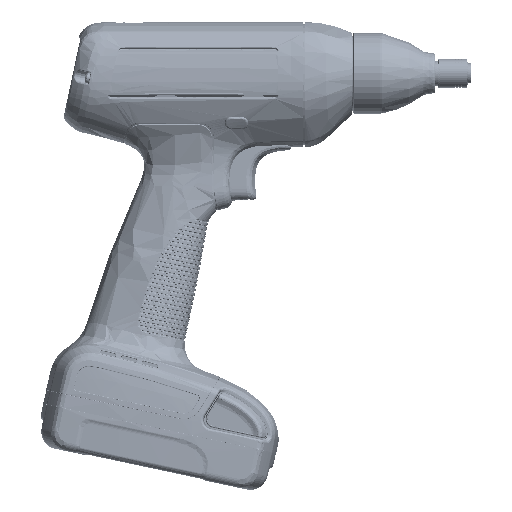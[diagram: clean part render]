
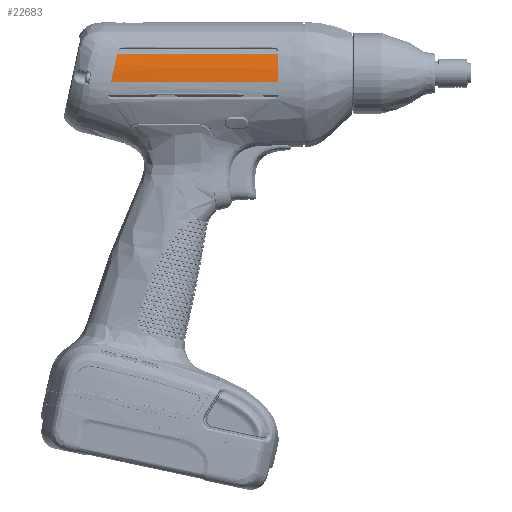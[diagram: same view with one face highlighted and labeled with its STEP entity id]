
A CAD part, left-side view. The second image highlights one B-rep face of the part: STEP entity #22683.
In plain terms, the highlighted free-form (B-spline) face has degree [3, 3] with [7, 4] control points.
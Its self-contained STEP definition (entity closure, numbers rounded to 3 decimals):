
#22683=ADVANCED_FACE('',(#30621),#29344,.T.);
#29344=B_SPLINE_SURFACE_WITH_KNOTS('',3,3,((#190934,#190935,#190936,#190937),
(#190938,#190939,#190940,#190941),(#190942,#190943,#190944,#190945),(#190946,
#190947,#190948,#190949),(#190950,#190951,#190952,#190953),(#190954,#190955,
#190956,#190957),(#190958,#190959,#190960,#190961)),.UNSPECIFIED.,.F.,.F.,
.F.,(4,3,4),(4,4),(0.,0.5,1.),(0.,1.),.UNSPECIFIED.);
#30621=FACE_OUTER_BOUND('',#37794,.T.);
#37794=EDGE_LOOP('',(#48016,#48017,#48018,#48019,#48020,#48021,#48022));
#48016=ORIENTED_EDGE('',*,*,#94646,.F.);
#48017=ORIENTED_EDGE('',*,*,#94651,.T.);
#48018=ORIENTED_EDGE('',*,*,#94652,.F.);
#48019=ORIENTED_EDGE('',*,*,#94653,.T.);
#48020=ORIENTED_EDGE('',*,*,#94654,.F.);
#48021=ORIENTED_EDGE('',*,*,#94655,.T.);
#48022=ORIENTED_EDGE('',*,*,#94647,.F.);
#82595=VERTEX_POINT('',#190482);
#82596=VERTEX_POINT('',#190487);
#82597=VERTEX_POINT('',#190492);
#82600=VERTEX_POINT('',#190890);
#82601=VERTEX_POINT('',#190907);
#82602=VERTEX_POINT('',#190915);
#82603=VERTEX_POINT('',#190929);
#94646=EDGE_CURVE('',#82595,#82596,#112126,.T.);
#94647=EDGE_CURVE('',#82596,#82597,#112127,.T.);
#94651=EDGE_CURVE('',#82595,#82600,#112131,.T.);
#94652=EDGE_CURVE('',#82601,#82600,#112132,.T.);
#94653=EDGE_CURVE('',#82601,#82602,#112133,.T.);
#94654=EDGE_CURVE('',#82603,#82602,#112134,.T.);
#94655=EDGE_CURVE('',#82603,#82597,#112135,.T.);
#112126=B_SPLINE_CURVE_WITH_KNOTS('',3,(#190483,#190484,#190485,#190486),
.UNSPECIFIED.,.F.,.F.,(4,4),(0.,1.),.UNSPECIFIED.);
#112127=B_SPLINE_CURVE_WITH_KNOTS('',3,(#190488,#190489,#190490,#190491),
.UNSPECIFIED.,.F.,.F.,(4,4),(0.,1.),.UNSPECIFIED.);
#112131=B_SPLINE_CURVE_WITH_KNOTS('',3,(#190886,#190887,#190888,#190889),
.UNSPECIFIED.,.F.,.F.,(4,4),(0.,1.),.UNSPECIFIED.);
#112132=B_SPLINE_CURVE_WITH_KNOTS('',3,(#190891,#190892,#190893,#190894,
#190895,#190896,#190897,#190898,#190899,#190900,#190901,#190902,#190903,
#190904,#190905,#190906),.UNSPECIFIED.,.F.,.F.,(4,3,3,3,3,4),(0.,0.205,
0.41,0.618,0.835,1.),.UNSPECIFIED.);
#112133=B_SPLINE_CURVE_WITH_KNOTS('',3,(#190908,#190909,#190910,#190911,
#190912,#190913,#190914),.UNSPECIFIED.,.F.,.F.,(4,3,4),(0.,0.434,
1.),.UNSPECIFIED.);
#112134=B_SPLINE_CURVE_WITH_KNOTS('',3,(#190916,#190917,#190918,#190919,
#190920,#190921,#190922,#190923,#190924,#190925,#190926,#190927,#190928),
.UNSPECIFIED.,.F.,.F.,(4,3,3,3,4),(0.,0.257,0.514,
0.766,1.),.UNSPECIFIED.);
#112135=B_SPLINE_CURVE_WITH_KNOTS('',3,(#190930,#190931,#190932,#190933),
.UNSPECIFIED.,.F.,.F.,(4,4),(0.,1.),.UNSPECIFIED.);
#190482=CARTESIAN_POINT('',(-25.5,-19.,-2.75));
#190483=CARTESIAN_POINT('',(-25.5,-19.,-2.75));
#190484=CARTESIAN_POINT('',(-25.5,-5.064,-2.75));
#190485=CARTESIAN_POINT('',(-25.501,8.87,-2.756));
#190486=CARTESIAN_POINT('',(-25.499,22.806,-2.752));
#190487=CARTESIAN_POINT('',(-25.499,22.806,-2.752));
#190488=CARTESIAN_POINT('',(-25.499,22.806,-2.752));
#190489=CARTESIAN_POINT('',(-25.498,37.121,-2.751));
#190490=CARTESIAN_POINT('',(-25.5,51.431,-2.756));
#190491=CARTESIAN_POINT('',(-25.5,65.745,-2.753));
#190492=CARTESIAN_POINT('',(-25.5,65.745,-2.753));
#190886=CARTESIAN_POINT('',(-25.5,-19.,-2.75));
#190887=CARTESIAN_POINT('',(-25.498,-19.,1.634));
#190888=CARTESIAN_POINT('',(-25.158,-19.,5.982));
#190889=CARTESIAN_POINT('',(-24.08,-19.,10.25));
#190890=CARTESIAN_POINT('',(-24.08,-19.,10.25));
#190891=CARTESIAN_POINT('',(-23.668,-17.5,11.75));
#190892=CARTESIAN_POINT('',(-23.668,-17.663,11.75));
#190893=CARTESIAN_POINT('',(-23.676,-17.828,11.723));
#190894=CARTESIAN_POINT('',(-23.692,-17.982,11.671));
#190895=CARTESIAN_POINT('',(-23.707,-18.135,11.618));
#190896=CARTESIAN_POINT('',(-23.73,-18.281,11.54));
#190897=CARTESIAN_POINT('',(-23.758,-18.409,11.443));
#190898=CARTESIAN_POINT('',(-23.786,-18.539,11.344));
#190899=CARTESIAN_POINT('',(-23.821,-18.653,11.223));
#190900=CARTESIAN_POINT('',(-23.858,-18.744,11.088));
#190901=CARTESIAN_POINT('',(-23.897,-18.838,10.949));
#190902=CARTESIAN_POINT('',(-23.939,-18.908,10.792));
#190903=CARTESIAN_POINT('',(-23.982,-18.951,10.631));
#190904=CARTESIAN_POINT('',(-24.014,-18.983,10.507));
#190905=CARTESIAN_POINT('',(-24.048,-19.,10.378));
#190906=CARTESIAN_POINT('',(-24.08,-19.,10.25));
#190907=CARTESIAN_POINT('',(-23.668,-17.5,11.75));
#190908=CARTESIAN_POINT('',(-23.668,-17.5,11.75));
#190909=CARTESIAN_POINT('',(-23.668,-6.067,11.75));
#190910=CARTESIAN_POINT('',(-23.667,5.365,11.75));
#190911=CARTESIAN_POINT('',(-23.667,16.798,11.75));
#190912=CARTESIAN_POINT('',(-23.667,31.681,11.75));
#190913=CARTESIAN_POINT('',(-23.666,46.564,11.75));
#190914=CARTESIAN_POINT('',(-23.666,61.448,11.75));
#190915=CARTESIAN_POINT('',(-23.666,61.448,11.75));
#190916=CARTESIAN_POINT('',(-23.998,62.915,10.562));
#190917=CARTESIAN_POINT('',(-23.954,62.879,10.729));
#190918=CARTESIAN_POINT('',(-23.91,62.814,10.893));
#190919=CARTESIAN_POINT('',(-23.87,62.723,11.04));
#190920=CARTESIAN_POINT('',(-23.829,62.632,11.186));
#190921=CARTESIAN_POINT('',(-23.792,62.514,11.319));
#190922=CARTESIAN_POINT('',(-23.761,62.377,11.427));
#190923=CARTESIAN_POINT('',(-23.73,62.243,11.533));
#190924=CARTESIAN_POINT('',(-23.705,62.088,11.618));
#190925=CARTESIAN_POINT('',(-23.689,61.924,11.672));
#190926=CARTESIAN_POINT('',(-23.674,61.772,11.723));
#190927=CARTESIAN_POINT('',(-23.666,61.609,11.75));
#190928=CARTESIAN_POINT('',(-23.666,61.448,11.75));
#190929=CARTESIAN_POINT('',(-23.998,62.915,10.562));
#190930=CARTESIAN_POINT('',(-23.998,62.915,10.562));
#190931=CARTESIAN_POINT('',(-25.143,63.844,6.192));
#190932=CARTESIAN_POINT('',(-25.477,64.791,1.736));
#190933=CARTESIAN_POINT('',(-25.5,65.745,-2.753));
#190934=CARTESIAN_POINT('',(-25.5,-19.507,-2.839));
#190935=CARTESIAN_POINT('',(-25.5,9.086,-2.84));
#190936=CARTESIAN_POINT('',(-25.5,37.678,-2.842));
#190937=CARTESIAN_POINT('',(-25.5,66.271,-2.843));
#190938=CARTESIAN_POINT('',(-25.499,-19.54,-0.364));
#190939=CARTESIAN_POINT('',(-25.495,8.897,-0.353));
#190940=CARTESIAN_POINT('',(-25.491,37.333,-0.341));
#190941=CARTESIAN_POINT('',(-25.487,65.77,-0.329));
#190942=CARTESIAN_POINT('',(-25.394,-19.573,2.104));
#190943=CARTESIAN_POINT('',(-25.392,8.707,2.122));
#190944=CARTESIAN_POINT('',(-25.389,36.988,2.14));
#190945=CARTESIAN_POINT('',(-25.387,65.268,2.159));
#190946=CARTESIAN_POINT('',(-25.106,-19.605,4.565));
#190947=CARTESIAN_POINT('',(-25.103,8.52,4.588));
#190948=CARTESIAN_POINT('',(-25.1,36.644,4.611));
#190949=CARTESIAN_POINT('',(-25.096,64.769,4.635));
#190950=CARTESIAN_POINT('',(-24.819,-19.638,7.026));
#190951=CARTESIAN_POINT('',(-24.815,8.332,7.054));
#190952=CARTESIAN_POINT('',(-24.81,36.301,7.083));
#190953=CARTESIAN_POINT('',(-24.805,64.271,7.111));
#190954=CARTESIAN_POINT('',(-24.354,-19.67,9.464));
#190955=CARTESIAN_POINT('',(-24.346,8.146,9.496));
#190956=CARTESIAN_POINT('',(-24.339,35.961,9.528));
#190957=CARTESIAN_POINT('',(-24.332,63.777,9.56));
#190958=CARTESIAN_POINT('',(-23.644,-19.702,11.832));
#190959=CARTESIAN_POINT('',(-23.632,7.964,11.868));
#190960=CARTESIAN_POINT('',(-23.621,35.63,11.904));
#190961=CARTESIAN_POINT('',(-23.609,63.296,11.94));
